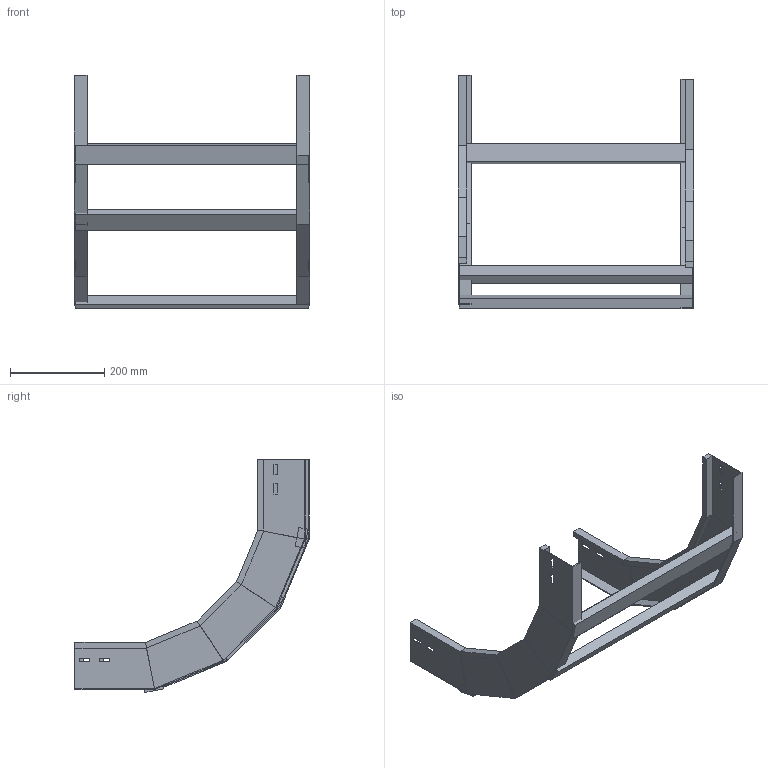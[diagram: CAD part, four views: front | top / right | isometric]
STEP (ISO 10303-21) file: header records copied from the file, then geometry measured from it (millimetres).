
FILE_DESCRIPTION (( 'STEP AP214' ), '1' );
FILE_NAME ('A2X30B3D500XX.step', '2025-04-02T08:59:39', ( '' ), ( '' ), 'SwSTEP 2.0', 'SolidWorks 2023', '' );
FILE_SCHEMA (( 'AUTOMOTIVE_DESIGN' ));
Length unit declared in the file: millimetre
Products named in the file (3): A2X30B3D500XX; TRAVERSINO_500; LONGH.SALITA_90°_H100_R300
Assembly tree (5 placements, depth 2):
  A2X30B3D500XX
    LONGH.SALITA_90°_H100_R300  x2
    TRAVERSINO_500  x3
Bounding box: 500 x 497.32 x 495.32 mm (x, y, z)
Volume: 1833586.2 mm3; surface area: 608953.5 mm2
Topology: 5 solids, 5 shells, 134 faces, 308 edges, 184 vertices
Faces by surface type: plane 134
Entity records: 1864 total; most frequent: CARTESIAN_POINT 308, ORIENTED_EDGE 296, DIRECTION 292, EDGE_CURVE 148, LINE 148, VECTOR 148, VERTEX_POINT 88, AXIS2_PLACEMENT_3D 72
